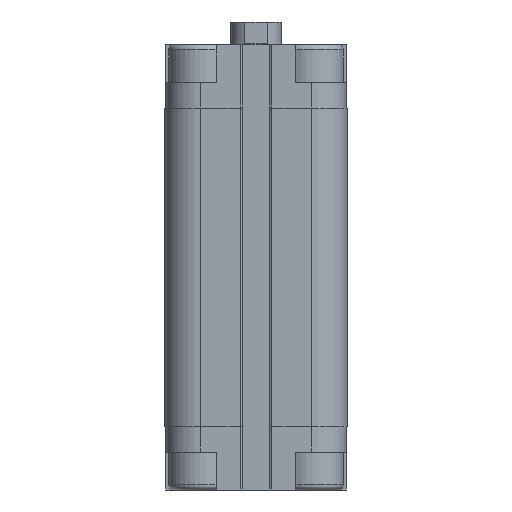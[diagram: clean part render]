
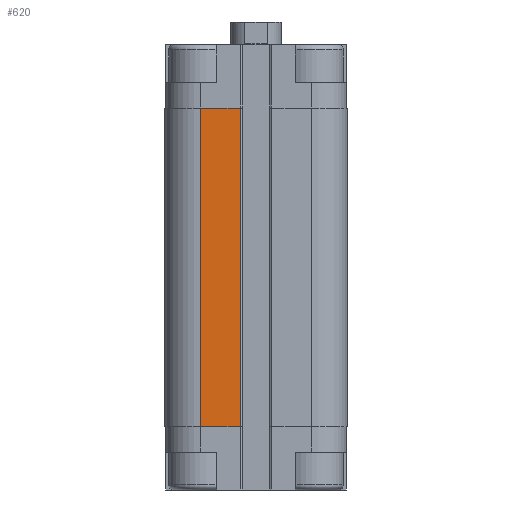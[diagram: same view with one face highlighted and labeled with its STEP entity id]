
A CAD part, front view. The second image highlights one B-rep face of the part: STEP entity #620.
In plain terms, the highlighted planar face has unit normal (0, -1, 0).
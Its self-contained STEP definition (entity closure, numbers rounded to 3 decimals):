
#470 = EDGE_CURVE ( 'NONE', #6917, #6539, #3376, .T. ) ;
#620 = ADVANCED_FACE ( 'NONE', ( #1044 ), #8117, .T. ) ;
#1044 = FACE_OUTER_BOUND ( 'NONE', #13060, .T. ) ;
#1430 = ORIENTED_EDGE ( 'NONE', *, *, #4970, .F. ) ;
#1535 = CARTESIAN_POINT ( 'NONE',  ( -3.1, -18., -75.5 ) ) ;
#1718 = CARTESIAN_POINT ( 'NONE',  ( -11., -18., -12.5 ) ) ;
#1903 = DIRECTION ( 'NONE',  ( 0., 0., 1. ) ) ;
#2001 = CARTESIAN_POINT ( 'NONE',  ( -11., -18., -75.5 ) ) ;
#2241 = LINE ( 'NONE', #10996, #15896 ) ;
#2704 = EDGE_CURVE ( 'NONE', #6539, #13160, #2241, .T. ) ;
#3376 = LINE ( 'NONE', #4961, #14853 ) ;
#3540 = ORIENTED_EDGE ( 'NONE', *, *, #470, .T. ) ;
#4961 = CARTESIAN_POINT ( 'NONE',  ( -11., -18., -75.5 ) ) ;
#4970 = EDGE_CURVE ( 'NONE', #14428, #13160, #5998, .T. ) ;
#5056 = CARTESIAN_POINT ( 'NONE',  ( -11., -18., -75.5 ) ) ;
#5284 = ORIENTED_EDGE ( 'NONE', *, *, #2704, .T. ) ;
#5998 = LINE ( 'NONE', #1718, #17555 ) ;
#6539 = VERTEX_POINT ( 'NONE', #1535 ) ;
#6609 = DIRECTION ( 'NONE',  ( 0., 0., 1. ) ) ;
#6917 = VERTEX_POINT ( 'NONE', #14719 ) ;
#8117 = PLANE ( 'NONE',  #9293 ) ;
#8592 = VECTOR ( 'NONE', #1903, 1000. ) ;
#9293 = AXIS2_PLACEMENT_3D ( 'NONE', #5056, #10928, #16820 ) ;
#10928 = DIRECTION ( 'NONE',  ( 0., -1., 0. ) ) ;
#10996 = CARTESIAN_POINT ( 'NONE',  ( -3.1, -18., -75.5 ) ) ;
#13060 = EDGE_LOOP ( 'NONE', ( #1430, #15093, #3540, #5284 ) ) ;
#13160 = VERTEX_POINT ( 'NONE', #13803 ) ;
#13761 = CARTESIAN_POINT ( 'NONE',  ( -11., -18., -12.5 ) ) ;
#13803 = CARTESIAN_POINT ( 'NONE',  ( -3.1, -18., -12.5 ) ) ;
#14428 = VERTEX_POINT ( 'NONE', #13761 ) ;
#14645 = EDGE_CURVE ( 'NONE', #6917, #14428, #17601, .T. ) ;
#14719 = CARTESIAN_POINT ( 'NONE',  ( -11., -18., -75.5 ) ) ;
#14853 = VECTOR ( 'NONE', #16082, 1000. ) ;
#15093 = ORIENTED_EDGE ( 'NONE', *, *, #14645, .F. ) ;
#15896 = VECTOR ( 'NONE', #6609, 1000. ) ;
#16082 = DIRECTION ( 'NONE',  ( 1., 0., 0. ) ) ;
#16820 = DIRECTION ( 'NONE',  ( -1., 0., 0. ) ) ;
#17496 = DIRECTION ( 'NONE',  ( 1., 0., 0. ) ) ;
#17555 = VECTOR ( 'NONE', #17496, 1000. ) ;
#17601 = LINE ( 'NONE', #2001, #8592 ) ;
